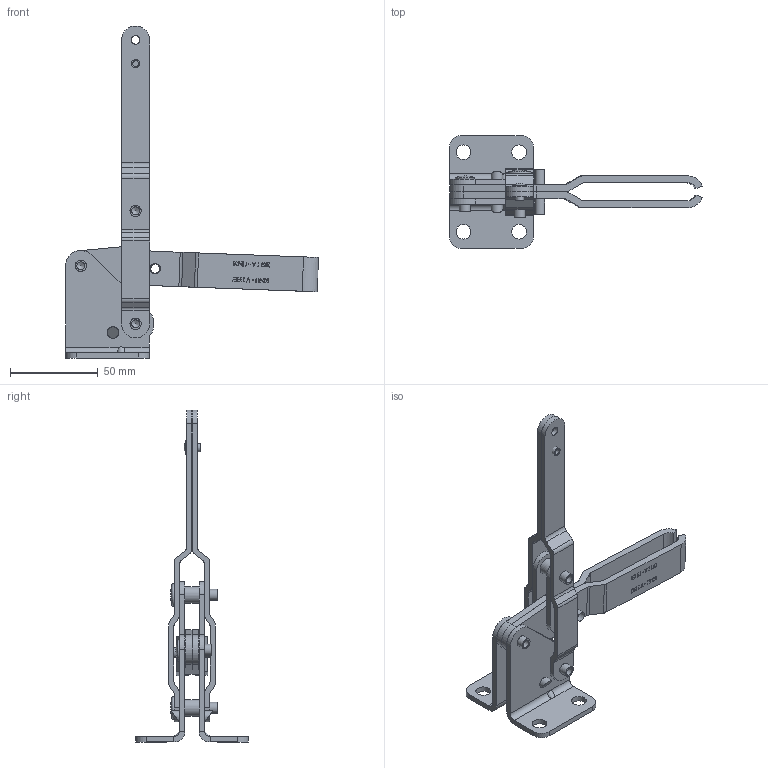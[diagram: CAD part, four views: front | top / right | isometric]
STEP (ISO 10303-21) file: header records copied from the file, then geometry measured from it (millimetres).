
FILE_DESCRIPTION(/* description */ (''),/* implementation_level */ '2;1');
FILE_NAME(/* name */ 'v-600',/* time_stamp */ '2004-04-08T10:45:43-04:00',/* author */ (''),/* organization */ (''),/* preprocessor_version */ 'ST-DEVELOPER v9',/* originating_system */ 'EDS PLM SOLUTIONS - UNIGRAPHICS NX 1.0',/* authorisation */ '');
FILE_SCHEMA (('AUTOMOTIVE_DESIGN { 1 0 10303 214 0 1 1 1 }'));
Length unit declared in the file: inch
Products named in the file (1): mfur8F8C004a
Bounding box: 143.98 x 64.29 x 188.97 mm (x, y, z)
Volume: 130545.4 mm3; surface area: 102327.3 mm2
Topology: 32 solids, 32 shells, 1884 faces, 5070 edges, 3378 vertices
Faces by surface type: plane 1614, cylinder 232, torus 18, cone 10, bspline 8, sphere 2
Full cylindrical faces by diameter (mm): 3.353 x2, 4.572 x8, 4.724 x2, 4.851 x4, 5.41 x2, 5.537 x4, 5.563 x2, 6.299 x8, 6.426 x20, 6.452 x4, 6.604 x4, 8.382 x8, 9.525 x12, 9.601 x4
Entity records: 57775 total; most frequent: CARTESIAN_POINT 10483, ORIENTED_EDGE 9768, DIRECTION 9102, EDGE_CURVE 4884, LINE 4396, VECTOR 4396, VERTEX_POINT 3326, AXIS2_PLACEMENT_3D 2353
